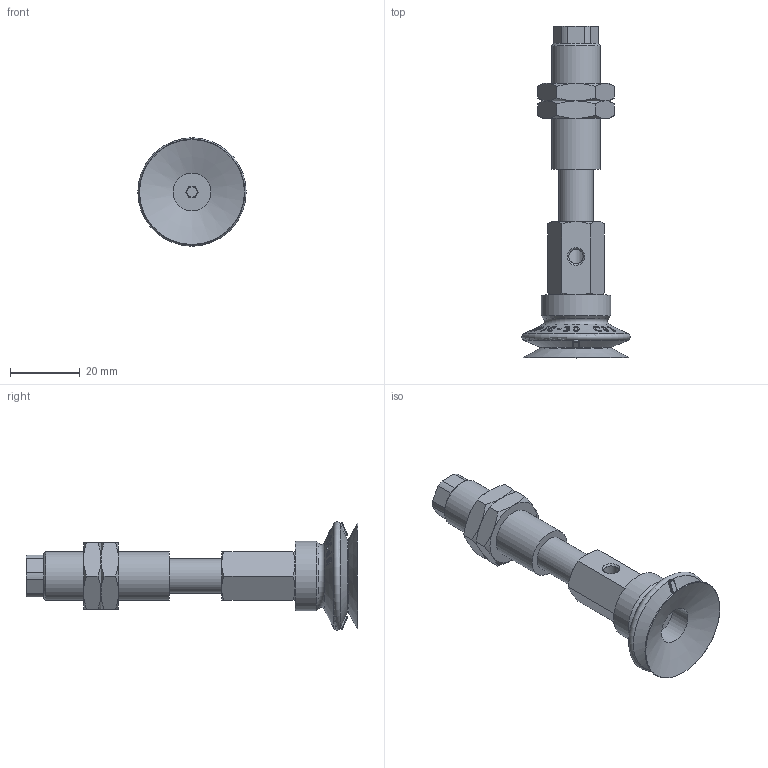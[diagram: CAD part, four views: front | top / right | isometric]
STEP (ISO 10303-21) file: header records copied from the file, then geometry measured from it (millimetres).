
FILE_DESCRIPTION(('STEP AP214'),'1');
FILE_NAME('.stp','2026-01-21T05:53:19',(' '),(' '),'Spatial InterOp 3D',' ',' ');
FILE_SCHEMA(('AUTOMOTIVE_DESIGN { 1 0 10303 214 1 1 1 1 }'));
Length unit declared in the file: millimetre
Products named in the file (7): BNABPJYS-30-15-※; BPJG-30-※; Adapter-30-NAPJ; CONNECTOR_S-30-15; NUT-NAPJ-30-15-s; NAPJYS-30-15-FBODY; NAPJYS-30-15-MBODY
Assembly tree (7 placements, depth 2):
  BNABPJYS-30-15-※
    BPJG-30-※
    Adapter-30-NAPJ
    CONNECTOR_S-30-15
    NUT-NAPJ-30-15-s  x2
    NAPJYS-30-15-FBODY
    NAPJYS-30-15-MBODY
Bounding box: 30.99 x 95 x 30.99 mm (x, y, z)
Volume: 17992.2 mm3; surface area: 12901.5 mm2
Topology: 7 solids, 7 shells, 782 faces, 2167 edges, 1422 vertices
Faces by surface type: plane 675, cone 70, cylinder 30, torus 7
Full cylindrical faces by diameter (mm): 3 x2, 4.134 x2, 4.917 x1, 5 x1, 5.8 x1, 6 x1, 10 x2, 10.8 x1, 11 x1, 13.188 x2, 14 x1, 20 x1
Entity records: 31294 total; most frequent: CARTESIAN_POINT 7788, ORIENTED_EDGE 4160, DIRECTION 2637, EDGE_CURVE 2080, VERTEX_POINT 1389, B_SPLINE_CURVE_WITH_KNOTS 1083, LINE 891, VECTOR 891
